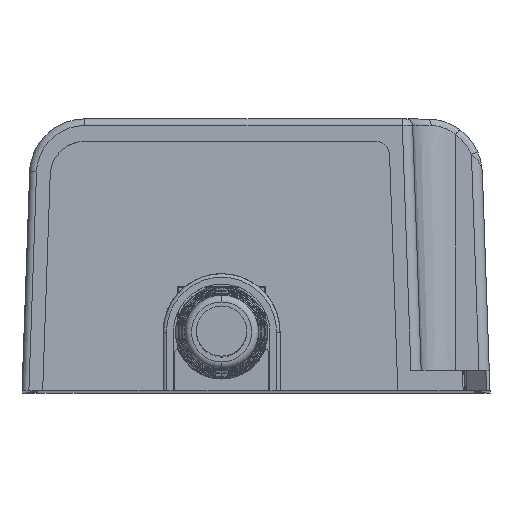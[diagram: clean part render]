
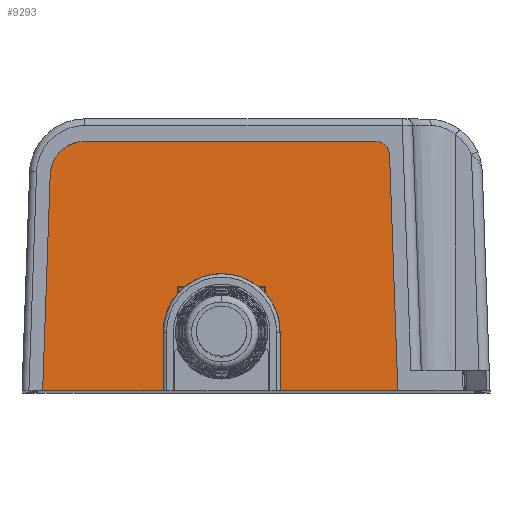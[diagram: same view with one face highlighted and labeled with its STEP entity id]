
A CAD part, top view. The second image highlights one B-rep face of the part: STEP entity #9293.
In plain terms, the highlighted planar face has unit normal (0, 0.035, 0.999).
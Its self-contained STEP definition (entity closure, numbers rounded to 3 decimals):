
#348=DIRECTION('',(1.,0.,0.));
#349=VECTOR('',#348,17.499);
#350=CARTESIAN_POINT('',(-64.999,0.,-0.4));
#351=LINE('',#350,#349);
#418=DIRECTION('',(1.,0.,0.));
#419=VECTOR('',#418,17.104);
#420=CARTESIAN_POINT('',(-30.5,0.,-0.4));
#421=LINE('',#420,#419);
#1947=DIRECTION('',(0.,-0.999,0.035));
#1948=VECTOR('',#1947,8.505);
#1949=CARTESIAN_POINT('',(-47.5,8.5,-0.697));
#1950=LINE('',#1949,#1948);
#1959=CARTESIAN_POINT('',(-30.5,8.5,-0.697));
#1960=CARTESIAN_POINT('',(-30.5,9.502,-0.732));
#1961=CARTESIAN_POINT('',(-30.863,11.666,
-0.808));
#1962=CARTESIAN_POINT('',(-32.812,14.69,
-0.913));
#1963=CARTESIAN_POINT('',(-35.326,16.312,
-0.97));
#1964=CARTESIAN_POINT('',(-37.465,16.911,
-0.991));
#1965=CARTESIAN_POINT('',(-39.,17.045,-0.995));
#1966=CARTESIAN_POINT('',(-40.535,16.911,
-0.991));
#1967=CARTESIAN_POINT('',(-42.674,16.312,
-0.97));
#1968=CARTESIAN_POINT('',(-45.188,14.69,
-0.913));
#1969=CARTESIAN_POINT('',(-47.137,11.666,
-0.808));
#1970=CARTESIAN_POINT('',(-47.5,9.502,-0.732));
#1971=CARTESIAN_POINT('',(-47.5,8.5,-0.697));
#1973=DIRECTION('',(-0.035,-0.999,0.035));
#1974=VECTOR('',#1973,31.434);
#1975=CARTESIAN_POINT('',(-63.903,31.395,
-1.497));
#1976=LINE('',#1975,#1974);
#1977=CARTESIAN_POINT('',(-58.905,36.222,
-1.665));
#1978=CARTESIAN_POINT('',(-59.269,36.222,
-1.665));
#1979=CARTESIAN_POINT('',(-60.003,36.142,
-1.662));
#1980=CARTESIAN_POINT('',(-61.045,35.786,
-1.65));
#1981=CARTESIAN_POINT('',(-61.988,35.21,
-1.63));
#1982=CARTESIAN_POINT('',(-62.782,34.443,
-1.603));
#1983=CARTESIAN_POINT('',(-63.391,33.521,
-1.571));
#1984=CARTESIAN_POINT('',(-63.784,32.491,
-1.535));
#1985=CARTESIAN_POINT('',(-63.89,31.759,
-1.509));
#1986=CARTESIAN_POINT('',(-63.903,31.395,
-1.497));
#1988=DIRECTION('',(-1.,0.,0.));
#1989=VECTOR('',#1988,42.313);
#1990=CARTESIAN_POINT('',(-16.592,36.222,
-1.665));
#1991=LINE('',#1990,#1989);
#1992=CARTESIAN_POINT('',(-16.592,34.223,
-1.595));
#1993=DIRECTION('',(0.,0.035,0.999));
#1994=DIRECTION('',(0.999,0.035,-0.001));
#1995=AXIS2_PLACEMENT_3D('',#1992,#1993,#1994);
#1997=DIRECTION('',(-0.035,0.999,-0.035));
#1998=VECTOR('',#1997,34.335);
#1999=CARTESIAN_POINT('',(-13.396,0.,-0.4));
#2000=LINE('',#1999,#1998);
#2010=DIRECTION('',(0.,-0.999,0.035));
#2011=VECTOR('',#2010,8.505);
#2012=CARTESIAN_POINT('',(-30.5,8.5,-0.697));
#2013=LINE('',#2012,#2011);
#5739=CARTESIAN_POINT('',(-14.594,34.293,
-1.598));
#5740=CARTESIAN_POINT('',(-16.592,36.222,
-1.665));
#5741=VERTEX_POINT('',#5739);
#5742=VERTEX_POINT('',#5740);
#5743=CARTESIAN_POINT('',(-58.905,36.222,
-1.665));
#5744=VERTEX_POINT('',#5743);
#5745=VERTEX_POINT('',#1986);
#5746=CARTESIAN_POINT('',(-64.999,0.,-0.4));
#5748=VERTEX_POINT('',#5746);
#5750=CARTESIAN_POINT('',(-13.396,0.,-0.4));
#5752=VERTEX_POINT('',#5750);
#5762=CARTESIAN_POINT('',(-47.5,0.,-0.4));
#5763=VERTEX_POINT('',#5762);
#5764=CARTESIAN_POINT('',(-30.5,0.,-0.4));
#5765=VERTEX_POINT('',#5764);
#5766=CARTESIAN_POINT('',(-30.5,8.5,-0.697));
#5767=VERTEX_POINT('',#5766);
#5768=CARTESIAN_POINT('',(-47.5,8.5,-0.697));
#5769=VERTEX_POINT('',#5768);
#9269=CARTESIAN_POINT('',(0.,-0.014,-0.4));
#9270=DIRECTION('',(0.,0.035,0.999));
#9271=DIRECTION('',(1.,0.,0.));
#9272=AXIS2_PLACEMENT_3D('',#9269,#9270,#9271);
#9273=PLANE('',#9272);
#9275=ORIENTED_EDGE('',*,*,#9274,.T.);
#9276=ORIENTED_EDGE('',*,*,#9254,.T.);
#9277=ORIENTED_EDGE('',*,*,#6816,.F.);
#9279=ORIENTED_EDGE('',*,*,#9278,.F.);
#9281=ORIENTED_EDGE('',*,*,#9280,.F.);
#9283=ORIENTED_EDGE('',*,*,#9282,.F.);
#9285=ORIENTED_EDGE('',*,*,#9284,.F.);
#9287=ORIENTED_EDGE('',*,*,#9286,.F.);
#9288=ORIENTED_EDGE('',*,*,#6887,.F.);
#9290=ORIENTED_EDGE('',*,*,#9289,.F.);
#9291=EDGE_LOOP('',(#9275,#9276,#9277,#9279,#9281,#9283,#9285,#9287,#9288,
#9290));
#9292=FACE_OUTER_BOUND('',#9291,.F.);
#1972=B_SPLINE_CURVE_WITH_KNOTS('',3,(#1959,#1960,#1961,#1962,#1963,#1964,#1965,
#1966,#1967,#1968,#1969,#1970,#1971),.UNSPECIFIED.,.F.,.F.,(4,1,1,1,1,1,1,1,1,1,
4),(0.,0.125,0.25,0.375,0.438,0.5,0.563,0.625,0.75,0.875,
1.),.UNSPECIFIED.);
#1987=B_SPLINE_CURVE_WITH_KNOTS('',3,(#1977,#1978,#1979,#1980,#1981,#1982,#1983,
#1984,#1985,#1986),.UNSPECIFIED.,.F.,.F.,(4,1,1,1,1,1,1,4),(0.,
0.143,0.285,0.428,0.571,
0.714,0.857,1.),.UNSPECIFIED.);
#1996=CIRCLE('',#1995,2.);
#6816=EDGE_CURVE('',#5748,#5763,#351,.T.);
#6887=EDGE_CURVE('',#5765,#5752,#421,.T.);
#9254=EDGE_CURVE('',#5769,#5763,#1950,.T.);
#9274=EDGE_CURVE('',#5767,#5769,#1972,.T.);
#9278=EDGE_CURVE('',#5745,#5748,#1976,.T.);
#9280=EDGE_CURVE('',#5744,#5745,#1987,.T.);
#9282=EDGE_CURVE('',#5742,#5744,#1991,.T.);
#9284=EDGE_CURVE('',#5741,#5742,#1996,.T.);
#9286=EDGE_CURVE('',#5752,#5741,#2000,.T.);
#9289=EDGE_CURVE('',#5767,#5765,#2013,.T.);
#9293=ADVANCED_FACE('',(#9292),#9273,.T.);
